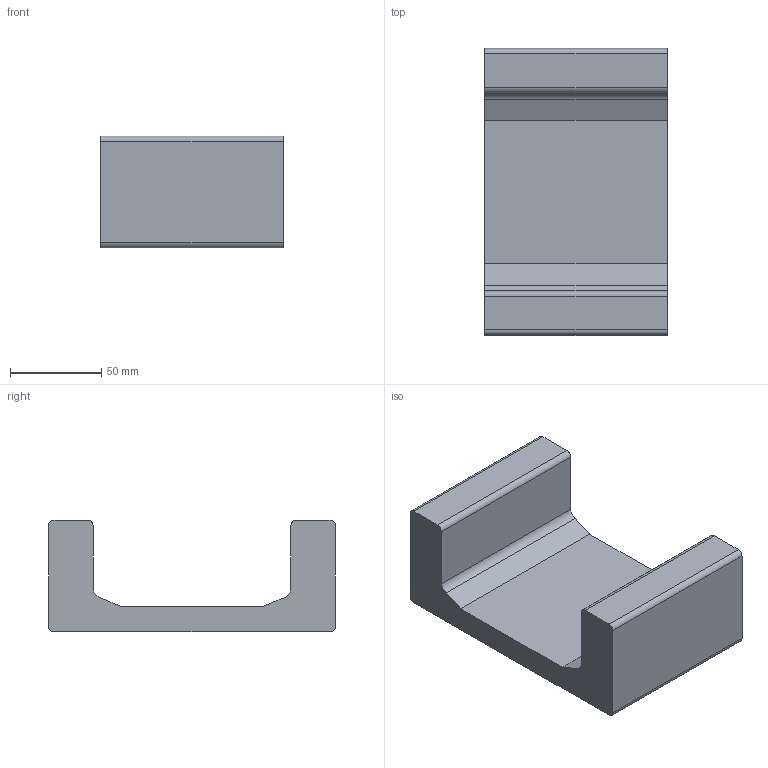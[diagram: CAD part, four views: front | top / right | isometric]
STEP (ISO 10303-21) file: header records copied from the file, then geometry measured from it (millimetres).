
FILE_DESCRIPTION((''),'2;1');
FILE_NAME('K:\Daten\KOMPONENTEN 2D + 3D\KOMPONENTEN Inventor-Files\ALFATEC_UP 110.0700.stp','2013-09-25T14:03:39',('hipp'),(''),'Autodesk Inventor 2013','Autodesk Inventor 2013','');
FILE_SCHEMA(('AUTOMOTIVE_DESIGN { 1 0 10303 214 1 1 1 1 }'));
Length unit declared in the file: millimetre
Products named in the file (1): ALFATEC UP 110.0700 (100mm)
Bounding box: 100 x 157.2 x 61.2 mm (x, y, z)
Volume: 459252.9 mm3; surface area: 60363.1 mm2
Topology: 1 solids, 1 shells, 20 faces, 54 edges, 36 vertices
Faces by surface type: plane 12, cylinder 8
Entity records: 660 total; most frequent: DIRECTION 112, CARTESIAN_POINT 111, ORIENTED_EDGE 108, EDGE_CURVE 54, VECTOR 38, LINE 38, AXIS2_PLACEMENT_3D 37, VERTEX_POINT 36
